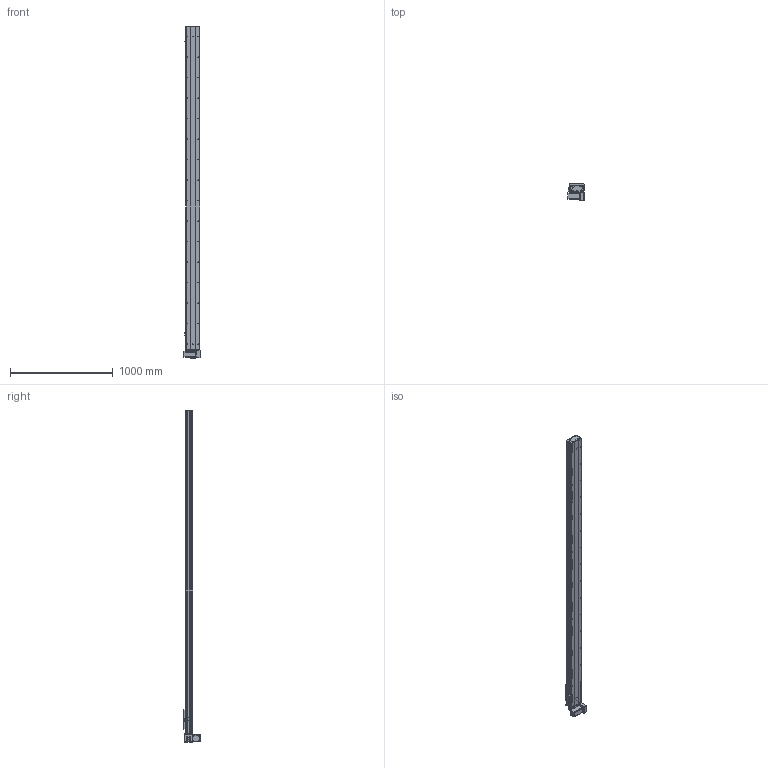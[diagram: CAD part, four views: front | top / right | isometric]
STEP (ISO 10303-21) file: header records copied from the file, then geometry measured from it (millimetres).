
FILE_DESCRIPTION (( 'STEP AP203' ), '1' );
FILE_NAME ('Y135CB-D90-S2850-BM-P400W.STEP', '2020-02-19T02:36:58', ( '微软用户' ), ( '微软中国' ), 'SwSTEP 2.0', 'SolidWorks 2017', '' );
FILE_SCHEMA (( 'CONFIG_CONTROL_DESIGN' ));
Length unit declared in the file: millimetre
Products named in the file (18): Y135CB-耜裔; Y135CB-D90-S2850-BM-P400W; 135CB--詩湍-CE; 135CB---遴掛极.-; Y100-135俋离換覜ん--; 35CB---喘謫眊楊擘啣; Y135C-陔俋离換覜結え-; 0B-埴倛裔啣; 5C--俋欶; 0B-源倛裔啣; C-雄赽釱--; 0B-萇儂楊擘啣; Y10B--々湍喘謫眊--666; san松下电机400不带刹车----; 00B-俋欶BM--; 5CB --掛极耜裔啣-; Y10B-耜蚾蟀諉啣----; C-詩湍揤踡え-陔
Assembly tree (21 placements, depth 2):
  Y135CB-D90-S2850-BM-P400W
    Y135CB-耜裔
    135CB---遴掛极.-
    35CB---喘謫眊楊擘啣
    0B-埴倛裔啣
    0B-源倛裔啣
    0B-萇儂楊擘啣
    san松下电机400不带刹车----
    5CB --掛极耜裔啣-  x2
    C-詩湍揤踡え-陔  x2
    135CB--詩湍-CE
    Y100-135俋离換覜ん--  x3
    Y135C-陔俋离換覜結え-
    5C--俋欶
    C-雄赽釱--
    Y10B--々湍喘謫眊--666
    00B-俋欶BM--
    Y10B-耜蚾蟀諉啣----
Bounding box: 157 x 163.3 x 3238 mm (x, y, z)
Volume: 9190795.4 mm3; surface area: 3644860.2 mm2
Topology: 21 solids, 21 shells, 981 faces, 2689 edges, 1782 vertices
Faces by surface type: cylinder 509, plane 456, cone 16
Entity records: 31167 total; most frequent: CARTESIAN_POINT 5208, DIRECTION 5181, ORIENTED_EDGE 4854, EDGE_CURVE 2427, AXIS2_PLACEMENT_3D 1903, VERTEX_POINT 1610, VECTOR 1375, LINE 1375
